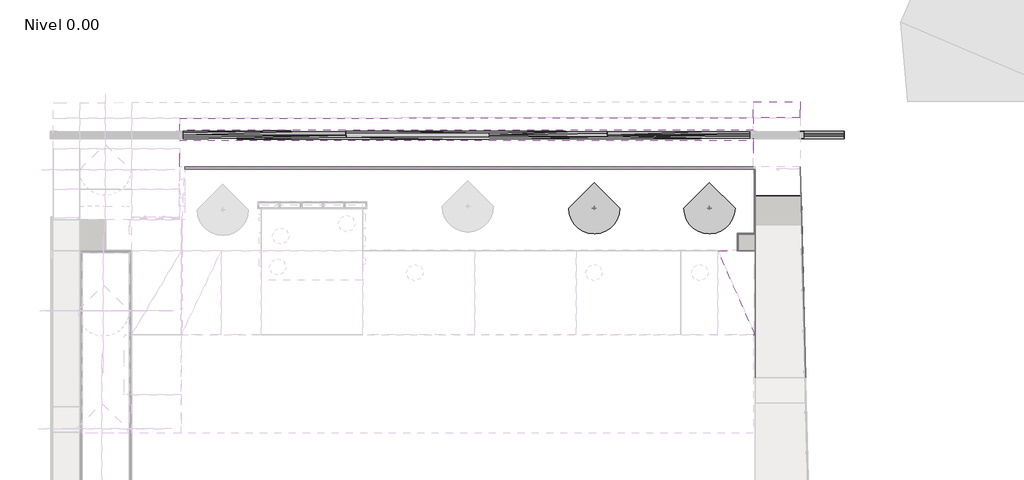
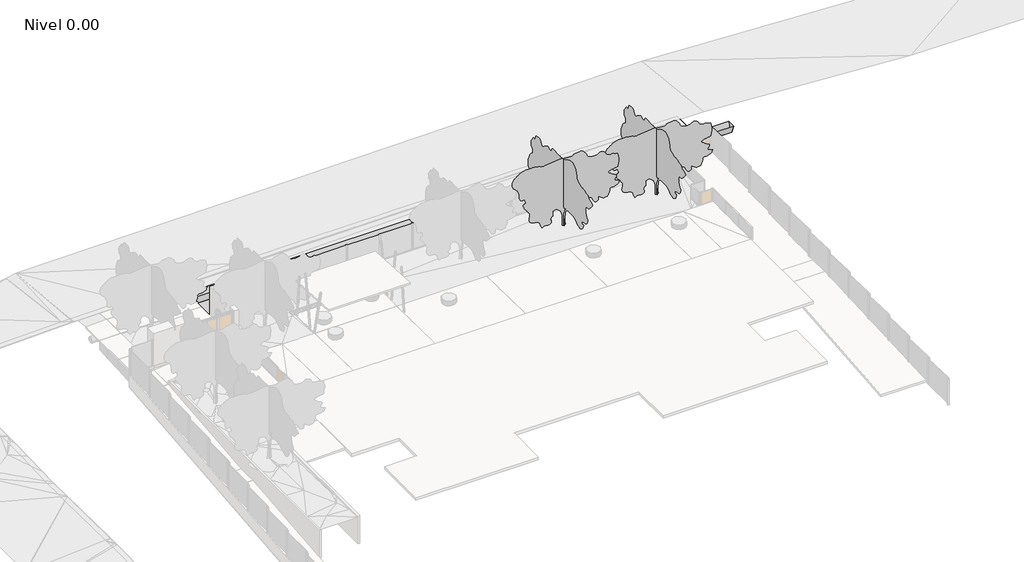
# One storey, part 10 of 10: 11 proxies, 2 geographic elements.
"""IFC4 building model written with IfcOpenShell, lengths in millimetres."""

from ifc_helpers import new_model, si_unit, origin, place, context, project, spatial, triangles, transform, mapped, element, save
from components import m_rpc_tree_deciduous_31fc5fb8

model = new_model("IFC4")

# Units and contexts
model_context = context("Model", 3, world=origin())
ifc_project = project(units=[si_unit("LENGTHUNIT", "METRE", prefix="MILLI")], contexts=[model_context])

# Site, building, storey
site = spatial("IfcSite", under=ifc_project)
building = spatial("IfcBuilding", under=site)
storey = spatial("IfcBuildingStorey", under=building, Name="Nivel 0.00", Elevation=0.0)

# Proxies
placement = place(None, origin())
element("IfcBuildingElementProxy", 1, Name="Building Element Proxy", at=placement, inside=storey, context=model_context, shape_type="Tessellation", body=[
    triangles([(18005.5253815, 10628.4128815, 1336.963306), (18005.5253815, 10628.4128815, 499.8404569), (18005.5253815, 9684.4263153, 1255.8361359), (18005.5253815, 9684.4263153, 499.8404569), (18005.5253815, 7432.3108749, 1062.2869034), (18005.5253815, 7432.3108749, 499.8404569), (18005.5253815, 6762.2564255, 1004.7016829), (18005.5253815, 6762.2564255, 499.8404569)], [[1, 4, 2], [1, 3, 4], [3, 6, 4], [3, 5, 6], [5, 8, 6], [5, 7, 8]], closed=False),
    triangles([(18005.5253815, 6762.2564255, 1004.7016829), (18005.5253815, 6762.2564255, 1089.8404541), (18005.5253815, 5786.4921478, 920.8434294), (18005.5253815, 5786.4921478, 1089.8404541)], [[1, 4, 2], [1, 3, 4]], closed=False),
    triangles([(18005.5253815, 5786.4921478, 920.8434294), (18005.5253815, 5786.4921478, 1279.9852432), (18005.5253815, 2381.3768818, 628.2041697), (18005.5253815, 2381.3768818, 1327.553706), (18005.5253815, 775.6549078, 490.2067062), (18005.5253815, 775.6549078, 1349.985331)], [[1, 4, 2], [1, 3, 4], [3, 6, 4], [3, 5, 6]], closed=False),
    triangles([(18005.5253815, 775.6549078, 490.2067062), (18005.5253815, 775.6549078, 342.2647553), (18005.5253815, 666.8821867, 480.8586576), (18005.5253815, 666.8821867, 333.9799049), (18005.5253815, -1587.9591774, 287.0751553), (18005.5253815, -1587.9591774, 228.7157088), (18005.5253815, -1793.0786339, 269.4469799), (18005.5253815, -1793.0786339, 219.3381017)], [[1, 4, 2], [1, 3, 4], [3, 6, 4], [3, 5, 6], [5, 8, 6], [5, 7, 8]], closed=False),
    triangles([(20690.8486816, 10773.5575104, 1349.4371086), (20690.8486816, 10773.5575104, 965.9795551), (20775.4923523, 7491.3927338, 1067.3644278), (20775.4923523, 7491.3927338, 833.9799088), (20813.5760742, 6014.5881088, 940.4462299), (20813.5760742, 6014.5881088, 730.1392994), (20950.4677185, 706.3930017, 484.2542716), (20950.4677185, 706.3930017, 333.9799049), (21014.9265747, -1793.0786339, 269.4469799), (21014.9265747, -1793.0786339, 214.6862781)], [[1, 4, 2], [1, 3, 4], [3, 6, 4], [3, 5, 6], [5, 8, 6], [5, 7, 8], [7, 10, 8], [7, 9, 10]], closed=False),
    triangles([(21014.9265747, -1793.0786339, 269.4469799), (21014.9265747, -1793.0786339, 214.6862781), (20950.4677185, 706.3930017, 484.2542716), (20950.4677185, 706.3930017, 333.9799049), (20813.5760742, 6014.5881088, 940.4462299), (20813.5760742, 6014.5881088, 730.1392994), (20775.4923523, 7491.3927338, 1067.3644278), (20775.4923523, 7491.3927338, 833.9799088), (20690.8486816, 10773.5575104, 1349.4371086), (20690.8486816, 10773.5575104, 965.9795551)], [[1, 4, 2], [1, 3, 4], [3, 6, 4], [3, 5, 6], [5, 8, 6], [5, 7, 8], [7, 10, 8], [7, 9, 10]], closed=False),
    triangles([(18005.5253815, 775.6549078, 490.2067062), (18005.5253815, 775.6549078, 342.2647553), (18005.5253815, 666.8821867, 480.8586576), (18005.5253815, 666.8821867, 333.9799049), (18005.5253815, -1587.9591774, 287.0751553), (18005.5253815, -1587.9591774, 228.7157088), (18005.5253815, -1793.0786339, 269.4469799), (18005.5253815, -1793.0786339, 219.3381017)], [[1, 4, 2], [1, 3, 4], [3, 6, 4], [3, 5, 6], [5, 8, 6], [5, 7, 8]], closed=False),
    triangles([(18005.5253815, 10628.4128815, 1336.963306), (18005.5253815, 10628.4128815, 499.8404569), (18005.5253815, 6762.2564255, 1004.7016829), (18005.5253815, 6762.2564255, 499.8404569)], [[1, 4, 2], [1, 3, 4]], closed=False),
    triangles([(18005.5253815, 6762.2564255, 1004.7016829), (18005.5253815, 6762.2564255, 1089.8404541), (18005.5253815, 5786.4921478, 920.8434294), (18005.5253815, 5786.4921478, 1089.8404541)], [[1, 4, 2], [1, 3, 4]], closed=False),
    triangles([(18005.5253815, 5786.4921478, 920.8434294), (18005.5253815, 5786.4921478, 1279.9852432), (18005.5253815, 775.6549078, 490.2067062), (18005.5253815, 775.6549078, 1349.985331)], [[1, 4, 2], [1, 3, 4]], closed=False),
    triangles([(18005.5253815, -1793.0786339, 269.4469799), (21014.9265747, -1793.0786339, 269.4469799), (20690.8486816, 10773.5575104, 1349.437254), (18005.5253815, 10773.8005188, 1349.4581829)], [[4, 1, 3], [2, 3, 1]], closed=False),
])
element("IfcBuildingElementProxy", 2, Name="Building Element Proxy", at=placement, inside=storey, context=model_context, shape_type="Tessellation", body=[
    triangles([(20690.8091492, 14627.6466797, 1349.840427), (20690.8091492, 14627.6466797, 1500.0000114), (20690.8091492, 13691.7886871, 1349.840427), (20690.8091492, 13691.7886871, 1499.9324284)], [[1, 4, 2], [1, 3, 4]], closed=False),
    triangles([(20690.8091492, 13691.7886871, 1349.840427), (20690.8091492, 13691.7886871, 1499.9324284), (20690.8091492, 14627.6466797, 1349.840427), (20690.8091492, 14627.6466797, 1500.0000114)], [[1, 4, 2], [1, 3, 4]], closed=False),
    triangles([(17905.5256714, 14624.7201141, 1349.840427), (17905.5256714, 13691.7886871, 1349.840427), (20690.8091492, 13691.7886871, 1349.840427), (20690.8091492, 14627.6466797, 1349.840427)], [[1, 2, 3], [3, 4, 1]], closed=False),
])
element("IfcBuildingElementProxy", 3, Name="Building Element Proxy", at=placement, inside=storey, context=model_context, shape_type="Tessellation", body=[
    triangles([(17905.5256714, 775.6549078, 1349.9700703), (17905.5256714, 775.6549078, 343.0877792), (18005.5253815, 775.6549078, 1349.9700703), (18005.5253815, 775.6549078, 342.2647553)], [[1, 4, 2], [1, 3, 4]], closed=False),
    triangles([(17905.5256714, 775.6549078, 1349.9700703), (17905.5256714, 775.6549078, 343.0877792), (18005.5253815, 775.6549078, 1349.9700703), (18005.5253815, 775.6549078, 342.2647553)], [[1, 4, 2], [1, 3, 4]], closed=False),
    triangles([(15795.1568115, 5786.4921478, 1249.9700695), (15795.1568115, 775.6549078, 1349.9700703), (18005.5253815, 775.6549078, 1349.9700703)], [[1, 2, 3]], closed=False),
])
element("IfcBuildingElementProxy", 4, Name="Building Element Proxy", at=placement, inside=storey, context=model_context, shape_type="Tessellation", body=[
    triangles([(15795.1568115, 5786.4921478, 1279.9852432), (18005.5253815, 775.6549078, 1349.985331), (18005.5253815, 5786.4921478, 1279.9852432)], [[1, 2, 3]], closed=False),
])
element("IfcBuildingElementProxy", 5, Name="Building Element Proxy", at=placement, inside=storey, context=model_context, shape_type="Tessellation", body=[
    triangles([(-15904.8326752, 10776.8759125, 499.8404569), (-15904.8326752, 10776.8759125, 847.0990934), (-15904.8326752, 10655.1845032, 499.8404569), (-15904.8326752, 10655.1845032, 833.9799088), (-15904.8326752, 10628.4128815, 499.8404569), (-15904.8326752, 10628.4128815, 832.7993122), (-15848.9779449, 10628.4128815, 499.8404569), (-15848.9779449, 10628.4128815, 833.9799088), (-13290.8561829, 10628.4128815, 499.8404569), (-13290.8561829, 10628.4128815, 966.1648636), (-12221.97724, 10628.4128815, 499.8404569), (-12221.97724, 10628.4128815, 1021.3966667), (-11742.7739319, 10628.4128815, 499.8404569), (-11742.7739319, 10628.4128815, 1046.158382), (-10472.3305481, 10628.4128815, 499.8404569), (-10472.3305481, 10628.4128815, 1046.0055571), (-9630.490654, 10628.4128815, 499.8404569), (-9630.490654, 10628.4128815, 1072.6864866), (-6698.7562317, 10628.4128815, 499.8404569), (-6698.7562317, 10628.4128815, 1165.6037802), (-6070.6986374, 10628.4128815, 499.8404569), (-6070.6986374, 10628.4128815, 1185.5091785), (-3984.3161041, 10628.4128815, 499.8404569), (-3984.3161041, 10628.4128815, 1185.33557), (-3180.0977509, 10628.4128815, 499.8404569), (-3180.0977509, 10628.4128815, 1185.2686409), (-2556.2108322, 10628.4128815, 499.8404569), (-2556.2108322, 10628.4128815, 1197.6035711), (-2261.5253311, 10628.4128815, 499.8404569), (-2261.5253311, 10628.4128815, 1203.4297417), (-1652.3798092, 10628.4128815, 499.8404569), (-1652.3798092, 10628.4128815, 1192.6431908), (-1376.8569466, 10628.4128815, 499.8404569), (-1376.8569466, 10628.4128815, 1187.7643461), (-1220.7113903, 10628.4128815, 499.8404569), (-1220.7113903, 10628.4128815, 1190.8515123), (-1072.6191216, 10628.4128815, 499.8404569), (-1072.6191216, 10628.4128815, 1188.185396), (-147.5089377, 10628.4128815, 499.8404569), (-147.5089377, 10628.4128815, 1188.1091652), (529.0745009, 10628.4128815, 499.8404569), (529.0745009, 10628.4128815, 1188.0534273), (1023.5197203, 10628.4128815, 499.8404569), (1023.5197203, 10628.4128815, 1181.9381756), (2116.674725, 10628.4128815, 499.8404569), (2116.674725, 10628.4128815, 1168.4182159), (2368.0592354, 10628.4128815, 499.8404569), (2368.0592354, 10628.4128815, 1165.3091034), (2906.9304131, 10628.4128815, 499.8404569), (2906.9304131, 10628.4128815, 1165.2615046), (4738.1811356, 10628.4128815, 499.8404569), (4738.1811356, 10628.4128815, 1165.0996685), (5638.289566, 10628.4128815, 499.8404569), (5638.289566, 10628.4128815, 1165.0201675), (6811.441214, 10628.4128815, 499.8404569), (6811.441214, 10628.4128815, 1157.1189056), (9557.4073242, 10628.4128815, 499.8404569), (9557.4073242, 10628.4128815, 1138.6245403), (10124.8866394, 10628.4128815, 499.8404569), (10124.8866394, 10628.4128815, 1134.8025352), (12119.9834656, 10628.4128815, 499.8404569), (12119.9834656, 10628.4128815, 1134.6105412), (13204.6498169, 10628.4128815, 499.8404569), (13204.6498169, 10628.4128815, 1134.5061871), (14256.2891144, 10628.4128815, 499.8404569), (14256.2891144, 10628.4128815, 1134.4049578), (17092.4973907, 10628.4128815, 499.8404569), (17092.4973907, 10628.4128815, 1130.5944345), (17941.2769775, 10628.4128815, 499.8404569), (17941.2769775, 10628.4128815, 1129.4540245)], [[1, 4, 2], [1, 3, 4], [3, 6, 4], [3, 5, 6], [5, 8, 6], [5, 7, 8], [7, 10, 8], [7, 9, 10], [9, 12, 10], [9, 11, 12], [11, 14, 12], [11, 13, 14], [13, 16, 14], [13, 15, 16], [15, 18, 16], [15, 17, 18], [17, 20, 18], [17, 19, 20], [19, 22, 20], [19, 21, 22], [21, 24, 22], [21, 23, 24], [23, 26, 24], [23, 25, 26], [25, 28, 26], [25, 27, 28], [27, 30, 28], [27, 29, 30], [29, 32, 30], [29, 31, 32], [31, 34, 32], [31, 33, 34], [33, 36, 34], [33, 35, 36], [35, 38, 36], [35, 37, 38], [37, 40, 38], [37, 39, 40], [39, 42, 40], [39, 41, 42], [41, 44, 42], [41, 43, 44], [43, 46, 44], [43, 45, 46], [45, 48, 46], [45, 47, 48], [47, 50, 48], [47, 49, 50], [49, 52, 50], [49, 51, 52], [51, 54, 52], [51, 53, 54], [53, 56, 54], [53, 55, 56], [55, 58, 56], [55, 57, 58], [57, 60, 58], [57, 59, 60], [59, 62, 60], [59, 61, 62], [61, 64, 62], [61, 63, 64], [63, 66, 64], [63, 65, 66], [65, 68, 66], [65, 67, 68], [67, 70, 68], [67, 69, 70]], closed=False),
    triangles([(17941.2769775, 10628.4128815, 499.8404569), (17941.2769775, 10628.4128815, 1129.4540245), (17092.4973907, 10628.4128815, 499.8404569), (17092.4973907, 10628.4128815, 1130.5944345), (14256.2891144, 10628.4128815, 499.8404569), (14256.2891144, 10628.4128815, 1134.4049578), (13204.6498169, 10628.4128815, 499.8404569), (13204.6498169, 10628.4128815, 1134.5061871), (12119.9834656, 10628.4128815, 499.8404569), (12119.9834656, 10628.4128815, 1134.6105412), (10124.8866394, 10628.4128815, 499.8404569), (10124.8866394, 10628.4128815, 1134.8025352), (9557.4073242, 10628.4128815, 499.8404569), (9557.4073242, 10628.4128815, 1138.6245403), (6811.441214, 10628.4128815, 499.8404569), (6811.441214, 10628.4128815, 1157.1189056), (5638.289566, 10628.4128815, 499.8404569), (5638.289566, 10628.4128815, 1165.0201675), (4738.1811356, 10628.4128815, 499.8404569), (4738.1811356, 10628.4128815, 1165.0996685), (2906.9304131, 10628.4128815, 499.8404569), (2906.9304131, 10628.4128815, 1165.2615046), (2368.0592354, 10628.4128815, 499.8404569), (2368.0592354, 10628.4128815, 1165.3091034), (2116.674725, 10628.4128815, 499.8404569), (2116.674725, 10628.4128815, 1168.4182159), (1023.5197203, 10628.4128815, 499.8404569), (1023.5197203, 10628.4128815, 1181.9381756), (529.0745009, 10628.4128815, 499.8404569), (529.0745009, 10628.4128815, 1188.0534273), (-147.5089377, 10628.4128815, 499.8404569), (-147.5089377, 10628.4128815, 1188.1091652), (-1072.6191216, 10628.4128815, 499.8404569), (-1072.6191216, 10628.4128815, 1188.185396), (-1220.7113903, 10628.4128815, 499.8404569), (-1220.7113903, 10628.4128815, 1190.8515123), (-1376.8569466, 10628.4128815, 499.8404569), (-1376.8569466, 10628.4128815, 1187.7643461), (-1652.3798092, 10628.4128815, 499.8404569), (-1652.3798092, 10628.4128815, 1192.6431908), (-2261.5253311, 10628.4128815, 499.8404569), (-2261.5253311, 10628.4128815, 1203.4297417), (-2556.2108322, 10628.4128815, 499.8404569), (-2556.2108322, 10628.4128815, 1197.6035711), (-3180.0977509, 10628.4128815, 499.8404569), (-3180.0977509, 10628.4128815, 1185.2686409), (-3984.3161041, 10628.4128815, 499.8404569), (-3984.3161041, 10628.4128815, 1185.33557), (-6070.6986374, 10628.4128815, 499.8404569), (-6070.6986374, 10628.4128815, 1185.5091785), (-6698.7562317, 10628.4128815, 499.8404569), (-6698.7562317, 10628.4128815, 1165.6037802), (-9630.490654, 10628.4128815, 499.8404569), (-9630.490654, 10628.4128815, 1072.6864866), (-10472.3305481, 10628.4128815, 499.8404569), (-10472.3305481, 10628.4128815, 1046.0055571), (-11742.7739319, 10628.4128815, 499.8404569), (-11742.7739319, 10628.4128815, 1046.158382), (-12221.97724, 10628.4128815, 499.8404569), (-12221.97724, 10628.4128815, 1021.3966667), (-13290.8561829, 10628.4128815, 499.8404569), (-13290.8561829, 10628.4128815, 966.1648636), (-15848.9779449, 10628.4128815, 499.8404569), (-15848.9779449, 10628.4128815, 833.9799088), (-15904.8326752, 10628.4128815, 499.8404569), (-15904.8326752, 10628.4128815, 832.7993122), (-15904.8326752, 10655.1845032, 499.8404569), (-15904.8326752, 10655.1845032, 833.9799088), (-15904.8326752, 10776.8759125, 499.8404569), (-15904.8326752, 10776.8759125, 847.0990934)], [[1, 4, 2], [1, 3, 4], [3, 6, 4], [3, 5, 6], [5, 8, 6], [5, 7, 8], [7, 10, 8], [7, 9, 10], [9, 12, 10], [9, 11, 12], [11, 14, 12], [11, 13, 14], [13, 16, 14], [13, 15, 16], [15, 18, 16], [15, 17, 18], [17, 20, 18], [17, 19, 20], [19, 22, 20], [19, 21, 22], [21, 24, 22], [21, 23, 24], [23, 26, 24], [23, 25, 26], [25, 28, 26], [25, 27, 28], [27, 30, 28], [27, 29, 30], [29, 32, 30], [29, 31, 32], [31, 34, 32], [31, 33, 34], [33, 36, 34], [33, 35, 36], [35, 38, 36], [35, 37, 38], [37, 40, 38], [37, 39, 40], [39, 42, 40], [39, 41, 42], [41, 44, 42], [41, 43, 44], [43, 46, 44], [43, 45, 46], [45, 48, 46], [45, 47, 48], [47, 50, 48], [47, 49, 50], [49, 52, 50], [49, 51, 52], [51, 54, 52], [51, 53, 54], [53, 56, 54], [53, 55, 56], [55, 58, 56], [55, 57, 58], [57, 60, 58], [57, 59, 60], [59, 62, 60], [59, 61, 62], [61, 64, 62], [61, 63, 64], [63, 66, 64], [63, 65, 66], [65, 68, 66], [65, 67, 68], [67, 70, 68], [67, 69, 70]], closed=False),
    triangles([(-2252.8217926, 10779.2315826, 499.8404569), (-2252.8217926, 10779.2315826, 1214.4464384), (-2253.6910709, 10779.2315826, 499.8404569), (-2253.6910709, 10779.2315826, 1214.4618444), (-2254.5936321, 10779.2315826, 499.8404569), (-2254.5936321, 10779.2315826, 1214.4439676), (-2557.1761803, 10779.2315826, 499.8404569), (-2557.1761803, 10779.2315826, 1208.4616293), (-3126.3617867, 10779.2315826, 499.8404569), (-3126.3617867, 10779.2315826, 1197.2082464), (-3128.8552391, 10779.2315826, 499.8404569), (-3128.8552391, 10779.2315826, 1197.2083918), (-3957.9139366, 10779.2315826, 499.8404569), (-3957.9139366, 10779.2315826, 1197.2774282), (-6109.2364014, 10779.2315826, 499.8404569), (-6109.2364014, 10779.2315826, 1197.4564871), (-6115.2081299, 10779.2315826, 499.8404569), (-6115.2081299, 10779.2315826, 1197.4569231), (-6762.8470871, 10779.2315826, 499.8404569), (-6762.8470871, 10779.2315826, 1176.9309231), (-6764.6120956, 10779.2315826, 499.8404569), (-6764.6120956, 10779.2315826, 1176.8749672), (-9439.2982544, 10779.2315826, 499.8404569), (-9439.2982544, 10779.2315826, 1092.1044874), (-9442.3341156, 10779.2315826, 499.8404569), (-9442.3341156, 10779.2315826, 1092.0082724), (-10349.6182709, 10779.2315826, 499.8404569), (-10349.6182709, 10779.2315826, 1063.2531235), (-10354.0726501, 10779.2315826, 499.8404569), (-10354.0726501, 10779.2315826, 1063.2537048), (-11723.4088348, 10779.2315826, 499.8404569), (-11723.4088348, 10779.2315826, 1063.418375), (-12240.0145111, 10779.2315826, 499.8404569), (-12240.0145111, 10779.2315826, 1036.7240015), (-12241.5934845, 10779.2315826, 499.8404569), (-12241.5934845, 10779.2315826, 1036.6423931), (-13394.0359314, 10779.2315826, 499.8404569), (-13394.0359314, 10779.2315826, 977.0926849), (-13397.4217712, 10779.2315826, 499.8404569), (-13397.4217712, 10779.2315826, 976.9176956), (-15904.8326752, 10779.2315826, 499.8404569), (-15904.8326752, 10779.2315826, 847.353075), (-15904.8326752, 10776.8759125, 499.8404569), (-15904.8326752, 10776.8759125, 847.0990934)], [[1, 4, 2], [1, 3, 4], [3, 6, 4], [3, 5, 6], [5, 8, 6], [5, 7, 8], [7, 10, 8], [7, 9, 10], [9, 12, 10], [9, 11, 12], [11, 14, 12], [11, 13, 14], [13, 16, 14], [13, 15, 16], [15, 18, 16], [15, 17, 18], [17, 20, 18], [17, 19, 20], [19, 22, 20], [19, 21, 22], [21, 24, 22], [21, 23, 24], [23, 26, 24], [23, 25, 26], [25, 28, 26], [25, 27, 28], [27, 30, 28], [27, 29, 30], [29, 32, 30], [29, 31, 32], [31, 34, 32], [31, 33, 34], [33, 36, 34], [33, 35, 36], [35, 38, 36], [35, 37, 38], [37, 40, 38], [37, 39, 40], [39, 42, 40], [39, 41, 42], [41, 44, 42], [41, 43, 44]], closed=False),
    triangles([(17905.5256714, 10779.2315826, 499.8404569), (17905.5256714, 10779.2315826, 1143.4408888), (16955.0034576, 10779.2315826, 499.8404569), (16955.0034576, 10779.2315826, 1144.7179911), (16952.3536194, 10779.2315826, 499.8404569), (16952.3536194, 10779.2315826, 1144.7215519), (16946.6248993, 10779.2315826, 499.8404569), (16946.6248993, 10779.2315826, 1144.7292549), (14359.0898163, 10779.2315826, 499.8404569), (14359.0898163, 10779.2315826, 1148.2057142), (14353.8994354, 10779.2315826, 499.8404569), (14353.8994354, 10779.2315826, 1148.2062229), (13259.1406769, 10779.2315826, 499.8404569), (13259.1406769, 10779.2315826, 1148.3115944), (13253.8909973, 10779.2315826, 499.8404569), (13253.8909973, 10779.2315826, 1148.3121031), (12124.6471344, 10779.2315826, 499.8404569), (12124.6471344, 10779.2315826, 1148.4207447), (10046.9960449, 10779.2315826, 499.8404569), (10046.9960449, 10779.2315826, 1148.6206598), (10037.9012512, 10779.2315826, 499.8404569), (10037.9012512, 10779.2315826, 1148.6215319), (9446.9111618, 10779.2315826, 499.8404569), (9446.9111618, 10779.2315826, 1152.6018848), (9444.3537598, 10779.2315826, 499.8404569), (9444.3537598, 10779.2315826, 1152.6191076), (6939.1479538, 10779.2315826, 499.8404569), (6939.1479538, 10779.2315826, 1169.4919149), (6934.4069641, 10779.2315826, 499.8404569), (6934.4069641, 10779.2315826, 1169.5238171), (5721.0757919, 10779.2315826, 499.8404569), (5721.0757919, 10779.2315826, 1177.695702), (5717.5289154, 10779.2315826, 499.8404569), (5717.5289154, 10779.2315826, 1177.6960653), (4786.502314, 10779.2315826, 499.8404569), (4786.502314, 10779.2315826, 1177.7783278), (4779.4268738, 10779.2315826, 499.8404569), (4779.4268738, 10779.2315826, 1177.7789091), (2885.1329063, 10779.2315826, 499.8404569), (2885.1329063, 10779.2315826, 1177.9463408), (2327.6008038, 10779.2315826, 499.8404569), (2327.6008038, 10779.2315826, 1177.995611), (2325.6281044, 10779.2315826, 499.8404569), (2325.6281044, 10779.2315826, 1177.9957563), (2065.5329338, 10779.2315826, 499.8404569), (2065.5329338, 10779.2315826, 1181.2125658), (2064.6181641, 10779.2315826, 499.8404569), (2064.6181641, 10779.2315826, 1181.2239023), (1067.3087626, 10779.2315826, 499.8404569), (1067.3087626, 10779.2315826, 1193.5584692), (1065.6184587, 10779.2315826, 499.8404569), (1065.6184587, 10779.2315826, 1193.5793982), (556.3512154, 10779.2315826, 499.8404569), (556.3512154, 10779.2315826, 1199.8779236), (554.0657444, 10779.2315826, 499.8404569), (554.0657444, 10779.2315826, 1199.8781416), (-142.8271468, 10779.2315826, 499.8404569), (-142.8271468, 10779.2315826, 1199.9355509), (-1095.8285334, 10779.2315826, 499.8404569), (-1095.8285334, 10779.2315826, 1200.0141071), (-1098.8319838, 10779.2315826, 499.8404569), (-1098.8319838, 10779.2315826, 1200.0143251), (-1251.390913, 10779.2315826, 499.8404569), (-1251.390913, 10779.2315826, 1202.7608145)], [[1, 4, 2], [1, 3, 4], [3, 6, 4], [3, 5, 6], [5, 8, 6], [5, 7, 8], [7, 10, 8], [7, 9, 10], [9, 12, 10], [9, 11, 12], [11, 14, 12], [11, 13, 14], [13, 16, 14], [13, 15, 16], [15, 18, 16], [15, 17, 18], [17, 20, 18], [17, 19, 20], [19, 22, 20], [19, 21, 22], [21, 24, 22], [21, 23, 24], [23, 26, 24], [23, 25, 26], [25, 28, 26], [25, 27, 28], [27, 30, 28], [27, 29, 30], [29, 32, 30], [29, 31, 32], [31, 34, 32], [31, 33, 34], [33, 36, 34], [33, 35, 36], [35, 38, 36], [35, 37, 38], [37, 40, 38], [37, 39, 40], [39, 42, 40], [39, 41, 42], [41, 44, 42], [41, 43, 44], [43, 46, 44], [43, 45, 46], [45, 48, 46], [45, 47, 48], [47, 50, 48], [47, 49, 50], [49, 52, 50], [49, 51, 52], [51, 54, 52], [51, 53, 54], [53, 56, 54], [53, 55, 56], [55, 58, 56], [55, 57, 58], [57, 60, 58], [57, 59, 60], [59, 62, 60], [59, 61, 62], [61, 64, 62], [61, 63, 64]], closed=False),
    triangles([(-15904.8326752, 10776.8759125, 499.8404569), (-15904.8326752, 10776.8759125, 847.0990934), (-15904.8326752, 10779.2315826, 499.8404569), (-15904.8326752, 10779.2315826, 847.353075), (-13397.4217712, 10779.2315826, 499.8404569), (-13397.4217712, 10779.2315826, 976.9176956), (-13394.0359314, 10779.2315826, 499.8404569), (-13394.0359314, 10779.2315826, 977.0926849), (-12241.5934845, 10779.2315826, 499.8404569), (-12241.5934845, 10779.2315826, 1036.6423931), (-12240.0145111, 10779.2315826, 499.8404569), (-12240.0145111, 10779.2315826, 1036.7240015), (-11723.4088348, 10779.2315826, 499.8404569), (-11723.4088348, 10779.2315826, 1063.418375), (-10354.0726501, 10779.2315826, 499.8404569), (-10354.0726501, 10779.2315826, 1063.2537048), (-10349.6182709, 10779.2315826, 499.8404569), (-10349.6182709, 10779.2315826, 1063.2531235), (-9442.3341156, 10779.2315826, 499.8404569), (-9442.3341156, 10779.2315826, 1092.0082724), (-9439.2982544, 10779.2315826, 499.8404569), (-9439.2982544, 10779.2315826, 1092.1044874), (-6764.6120956, 10779.2315826, 499.8404569), (-6764.6120956, 10779.2315826, 1176.8749672), (-6762.8470871, 10779.2315826, 499.8404569), (-6762.8470871, 10779.2315826, 1176.9309231), (-6115.2081299, 10779.2315826, 499.8404569), (-6115.2081299, 10779.2315826, 1197.4569231), (-6109.2364014, 10779.2315826, 499.8404569), (-6109.2364014, 10779.2315826, 1197.4564871), (-3957.9139366, 10779.2315826, 499.8404569), (-3957.9139366, 10779.2315826, 1197.2774282), (-3128.8552391, 10779.2315826, 499.8404569), (-3128.8552391, 10779.2315826, 1197.2083918), (-3126.3617867, 10779.2315826, 499.8404569), (-3126.3617867, 10779.2315826, 1197.2082464), (-2557.1761803, 10779.2315826, 499.8404569), (-2557.1761803, 10779.2315826, 1208.4616293), (-2254.5936321, 10779.2315826, 499.8404569), (-2254.5936321, 10779.2315826, 1214.4439676), (-2253.6910709, 10779.2315826, 499.8404569), (-2253.6910709, 10779.2315826, 1214.4618444), (-2252.8217926, 10779.2315826, 499.8404569), (-2252.8217926, 10779.2315826, 1214.4464384), (-1697.0727207, 10779.2315826, 499.8404569), (-1697.0727207, 10779.2315826, 1204.6053967), (-1412.7269955, 10779.2315826, 499.8404569), (-1412.7269955, 10779.2315826, 1199.5891331), (-1251.390913, 10779.2315826, 499.8404569), (-1251.390913, 10779.2315826, 1202.7608145), (-1098.8319838, 10779.2315826, 499.8404569), (-1098.8319838, 10779.2315826, 1200.0143251), (-1095.8285334, 10779.2315826, 499.8404569), (-1095.8285334, 10779.2315826, 1200.0141071), (-142.8271468, 10779.2315826, 499.8404569), (-142.8271468, 10779.2315826, 1199.9355509), (554.0657444, 10779.2315826, 499.8404569), (554.0657444, 10779.2315826, 1199.8781416), (556.3512154, 10779.2315826, 499.8404569), (556.3512154, 10779.2315826, 1199.8779236), (1065.6184587, 10779.2315826, 499.8404569), (1065.6184587, 10779.2315826, 1193.5793982), (1067.3087626, 10779.2315826, 499.8404569), (1067.3087626, 10779.2315826, 1193.5584692), (2064.6181641, 10779.2315826, 499.8404569), (2064.6181641, 10779.2315826, 1181.2239023), (2065.5329338, 10779.2315826, 499.8404569), (2065.5329338, 10779.2315826, 1181.2125658), (2325.6281044, 10779.2315826, 499.8404569), (2325.6281044, 10779.2315826, 1177.9957563), (2327.6008038, 10779.2315826, 499.8404569), (2327.6008038, 10779.2315826, 1177.995611), (2885.1329063, 10779.2315826, 499.8404569), (2885.1329063, 10779.2315826, 1177.9463408), (4779.4268738, 10779.2315826, 499.8404569), (4779.4268738, 10779.2315826, 1177.7789091), (4786.502314, 10779.2315826, 499.8404569), (4786.502314, 10779.2315826, 1177.7783278), (5717.5289154, 10779.2315826, 499.8404569), (5717.5289154, 10779.2315826, 1177.6960653), (5721.0757919, 10779.2315826, 499.8404569), (5721.0757919, 10779.2315826, 1177.695702), (6934.4069641, 10779.2315826, 499.8404569), (6934.4069641, 10779.2315826, 1169.5238171), (6939.1479538, 10779.2315826, 499.8404569), (6939.1479538, 10779.2315826, 1169.4919149), (9444.3537598, 10779.2315826, 499.8404569), (9444.3537598, 10779.2315826, 1152.6191076), (9446.9111618, 10779.2315826, 499.8404569), (9446.9111618, 10779.2315826, 1152.6018848), (10037.9012512, 10779.2315826, 499.8404569), (10037.9012512, 10779.2315826, 1148.6215319), (10046.9960449, 10779.2315826, 499.8404569), (10046.9960449, 10779.2315826, 1148.6206598), (12124.6471344, 10779.2315826, 499.8404569), (12124.6471344, 10779.2315826, 1148.4207447), (13253.8909973, 10779.2315826, 499.8404569), (13253.8909973, 10779.2315826, 1148.3121031), (13259.1406769, 10779.2315826, 499.8404569), (13259.1406769, 10779.2315826, 1148.3115944), (14353.8994354, 10779.2315826, 499.8404569), (14353.8994354, 10779.2315826, 1148.2062229), (14359.0898163, 10779.2315826, 499.8404569), (14359.0898163, 10779.2315826, 1148.2057142), (16946.6248993, 10779.2315826, 499.8404569), (16946.6248993, 10779.2315826, 1144.7292549), (16952.3536194, 10779.2315826, 499.8404569), (16952.3536194, 10779.2315826, 1144.7215519), (16955.0034576, 10779.2315826, 499.8404569), (16955.0034576, 10779.2315826, 1144.7179911), (17905.5256714, 10779.2315826, 499.8404569), (17905.5256714, 10779.2315826, 1143.4408888)], [[1, 4, 2], [1, 3, 4], [3, 6, 4], [3, 5, 6], [5, 8, 6], [5, 7, 8], [7, 10, 8], [7, 9, 10], [9, 12, 10], [9, 11, 12], [11, 14, 12], [11, 13, 14], [13, 16, 14], [13, 15, 16], [15, 18, 16], [15, 17, 18], [17, 20, 18], [17, 19, 20], [19, 22, 20], [19, 21, 22], [21, 24, 22], [21, 23, 24], [23, 26, 24], [23, 25, 26], [25, 28, 26], [25, 27, 28], [27, 30, 28], [27, 29, 30], [29, 32, 30], [29, 31, 32], [31, 34, 32], [31, 33, 34], [33, 36, 34], [33, 35, 36], [35, 38, 36], [35, 37, 38], [37, 40, 38], [37, 39, 40], [39, 42, 40], [39, 41, 42], [41, 44, 42], [41, 43, 44], [43, 46, 44], [43, 45, 46], [45, 48, 46], [45, 47, 48], [47, 50, 48], [47, 49, 50], [49, 52, 50], [49, 51, 52], [51, 54, 52], [51, 53, 54], [53, 56, 54], [53, 55, 56], [55, 58, 56], [55, 57, 58], [57, 60, 58], [57, 59, 60], [59, 62, 60], [59, 61, 62], [61, 64, 62], [61, 63, 64], [63, 66, 64], [63, 65, 66], [65, 68, 66], [65, 67, 68], [67, 70, 68], [67, 69, 70], [69, 72, 70], [69, 71, 72], [71, 74, 72], [71, 73, 74], [73, 76, 74], [73, 75, 76], [75, 78, 76], [75, 77, 78], [77, 80, 78], [77, 79, 80], [79, 82, 80], [79, 81, 82], [81, 84, 82], [81, 83, 84], [83, 86, 84], [83, 85, 86], [85, 88, 86], [85, 87, 88], [87, 90, 88], [87, 89, 90], [89, 92, 90], [89, 91, 92], [91, 94, 92], [91, 93, 94], [93, 96, 94], [93, 95, 96], [95, 98, 96], [95, 97, 98], [97, 100, 98], [97, 99, 100], [99, 102, 100], [99, 101, 102], [101, 104, 102], [101, 103, 104], [103, 106, 104], [103, 105, 106], [105, 108, 106], [105, 107, 108], [107, 110, 108], [107, 109, 110], [109, 112, 110], [109, 111, 112]], closed=False),
    triangles([(18006.2764984, 10779.2315826, 499.8404569), (-15904.8326752, 10779.2315826, 499.8404569), (-15904.8326752, 10628.4128815, 499.8404569), (18006.2764984, 10628.4128815, 499.8404569)], [[2, 3, 4], [4, 1, 2]], closed=False),
])
element("IfcBuildingElementProxy", 6, Name="Building Element Proxy", at=placement, inside=storey, context=model_context, shape_type="Tessellation", body=[
    triangles([(-16204.8329681, 10779.2315826, 1450.0000111), (17905.5256714, 10773.5575104, 1450.0000111), (17905.5256714, 12348.059079, 1450.0000111), (2168.4642963, 12348.059079, 1450.0000111), (-16208.9362061, 12348.059079, 1477.3569168)], [[5, 1, 4], [4, 2, 3], [2, 4, 1]], closed=False),
])
element("IfcBuildingElementProxy", 7, Name="Building Element Proxy", at=placement, inside=storey, context=model_context, shape_type="Tessellation", body=[
    triangles([(18005.5253815, 5786.4921478, 1089.8404541), (18005.5253815, 5786.4921478, 1279.9852432), (17005.5259552, 5786.4921478, 1089.8404541), (17005.5259552, 5786.4921478, 1279.9852432)], [[1, 4, 2], [1, 3, 4]], closed=False),
    triangles([(18005.5253815, 5786.4921478, 1089.8404541), (18005.5253815, 5786.4921478, 1279.9852432), (17005.5259552, 5786.4921478, 1089.8404541), (17005.5259552, 5786.4921478, 1279.9852432)], [[1, 4, 2], [1, 3, 4]], closed=False),
    triangles([(18005.5253815, 5786.4921478, 1089.8404541), (18005.5253815, 6762.2564255, 1089.8404541), (17005.5259552, 6762.2564255, 1089.8404541), (17005.5259552, 5786.4921478, 1089.8404541)], [[3, 4, 1], [1, 2, 3]], closed=False),
])
element("IfcBuildingElementProxy", 8, Name="Building Element Proxy", at=placement, inside=storey, context=model_context, shape_type="Tessellation", body=[
    triangles([(18005.5253815, 6762.2564255, 499.8404569), (18005.5253815, 6762.2564255, 1089.8404541), (17005.5259552, 6762.2564255, 499.8404569), (17005.5259552, 6762.2564255, 1089.8404541), (17005.5259552, 5786.4921478, 499.8404569), (17005.5259552, 5786.4921478, 1089.8404541)], [[1, 4, 2], [1, 3, 4], [3, 6, 4], [3, 5, 6]], closed=False),
    triangles([(16955.5255188, 5786.4921478, 499.8404569), (16955.5255188, 5786.4921478, 1279.9852432), (17005.5259552, 5786.4921478, 499.8404569), (17005.5259552, 5786.4921478, 1279.9852432)], [[1, 4, 2], [1, 3, 4]], closed=False),
    triangles([(17941.2769775, 10628.4128815, 499.8404569), (17941.2769775, 10628.4128815, 1129.4540245), (17941.2769775, 9750.853656, 499.8404569), (17941.2769775, 9750.853656, 1048.3488733), (17941.2769775, 7431.377211, 499.8404569), (17941.2769775, 7431.377211, 833.9799088), (17941.2769775, 6812.2562805, 499.8404569), (17941.2769775, 6812.2562805, 788.6989517), (16955.5255188, 6812.2562805, 499.8404569), (16955.5255188, 6812.2562805, 789.7469982), (16955.5255188, 5786.4921478, 499.8404569), (16955.5255188, 5786.4921478, 714.7252693)], [[1, 4, 2], [1, 3, 4], [3, 6, 4], [3, 5, 6], [5, 8, 6], [5, 7, 8], [7, 10, 8], [7, 9, 10], [9, 12, 10], [9, 11, 12]], closed=False),
    triangles([(17941.2769775, 10628.4128815, 499.8404569), (17941.2769775, 10628.4128815, 1129.4540245), (17941.2769775, 9750.853656, 499.8404569), (17941.2769775, 9750.853656, 1048.3488733), (17941.2769775, 7431.377211, 499.8404569), (17941.2769775, 7431.377211, 833.9799088), (17941.2769775, 6812.2562805, 499.8404569), (17941.2769775, 6812.2562805, 788.6989517), (16955.5255188, 6812.2562805, 499.8404569), (16955.5255188, 6812.2562805, 789.7469982), (16955.5255188, 5786.4921478, 499.8404569), (16955.5255188, 5786.4921478, 714.7252693)], [[1, 4, 2], [1, 3, 4], [3, 6, 4], [3, 5, 6], [5, 8, 6], [5, 7, 8], [7, 10, 8], [7, 9, 10], [9, 12, 10], [9, 11, 12]], closed=False),
    triangles([(18005.5253815, 6762.2564255, 499.8404569), (18005.5253815, 6762.2564255, 1089.8404541), (17005.5259552, 6762.2564255, 499.8404569), (17005.5259552, 6762.2564255, 1089.8404541), (17005.5259552, 5786.4921478, 499.8404569), (17005.5259552, 5786.4921478, 1089.8404541)], [[1, 4, 2], [1, 3, 4], [3, 6, 4], [3, 5, 6]], closed=False),
    triangles([(16955.5255188, 5786.4921478, 499.8404569), (16955.5255188, 5786.4921478, 1279.9852432), (17005.5259552, 5786.4921478, 499.8404569), (17005.5259552, 5786.4921478, 1279.9852432)], [[1, 4, 2], [1, 3, 4]], closed=False),
    triangles([(17005.5259552, 6762.2564255, 499.8404569), (18005.5253815, 6762.2564255, 499.8404569), (18005.5253815, 10628.4128815, 499.8404569), (17941.2769775, 10628.4128815, 499.8404569), (17941.2769775, 6812.2562805, 499.8404569), (16955.5255188, 6812.2562805, 499.8404569), (16955.5255188, 5786.4921478, 499.8404569), (17005.5259552, 5786.4921478, 499.8404569)], [[7, 8, 1], [6, 1, 5], [1, 6, 7], [5, 2, 3], [5, 1, 2], [3, 4, 5]], closed=False),
])
element("IfcBuildingElementProxy", 9, Name="Building Element Proxy", at=placement, inside=storey, context=model_context, shape_type="Tessellation", body=[
    triangles([(17905.5256714, 13691.7886871, 1450.0000111), (-16212.3325104, 13646.5647034, 1499.9998661), (-16210.5058777, 12948.0596649, 1487.8195049), (-6324.7465027, 12948.0596649, 1473.1033974), (9195.3544235, 12948.0596649, 1450.0000111), (17905.5256714, 12948.0596649, 1450.0000111)], [[2, 3, 4], [2, 4, 1], [5, 6, 1], [5, 1, 4]], closed=False),
])
element("IfcBuildingElementProxy", 10, Name="Building Element Proxy", at=placement, inside=storey, context=model_context, shape_type="Tessellation", body=[
    triangles([(-16208.9362061, 12348.059079, 1477.3569168), (2168.4642963, 12348.059079, 1450.0000111), (17905.5256714, 12348.059079, 1450.0000111), (17905.5256714, 12549.0968079, 800.0000061), (17905.5256714, 12648.0593719, 779.9999914), (17905.5256714, 12744.5685974, 800.0000061), (17905.5256714, 12948.0596649, 1450.0000111), (9195.3544235, 12948.0596649, 1450.0000111), (-6324.7465027, 12948.0596649, 1473.1033974), (-16210.5058777, 12948.0596649, 1487.8195049), (-16210.060556, 12777.9014465, 650.000005), (-16209.7210419, 12648.0593719, 629.9999903), (-16209.3757141, 12515.9592957, 650.000005), (9217.6170181, 12648.0593719, 742.5000275), (2165.2601315, 12648.0593719, 704.9999908), (-6317.1580124, 12648.0593719, 667.5000269), (-6316.381897, 12772.6982758, 679.9999907), (-6312.3094711, 12518.1766022, 679.9999907), (2160.8893227, 12766.8486328, 729.999991), (2164.9616032, 12528.6178253, 729.999991), (9206.453746, 12753.8343109, 759.9999767), (9209.994809, 12537.8230774, 759.9999767)], [[13, 1, 16], [17, 16, 18], [18, 16, 1], [2, 20, 18], [19, 18, 20], [18, 1, 2], [13, 16, 12], [11, 12, 9], [10, 11, 9], [9, 17, 19], [9, 12, 16], [9, 16, 17], [9, 19, 8], [18, 19, 17], [20, 15, 19], [20, 22, 15], [22, 20, 2], [14, 22, 3], [3, 22, 2], [15, 22, 21], [4, 14, 3], [8, 21, 14], [21, 8, 15], [14, 21, 22], [8, 14, 7], [6, 7, 14], [5, 6, 14], [14, 4, 5], [15, 8, 19]], closed=False),
])
element("IfcBuildingElementProxy", 11, Name="Building Element Proxy", at=placement, inside=storey, context=model_context, shape_type="Tessellation", body=[
    triangles([(23318.4441101, 12348.059079, 1450.0000111), (20692.9811096, 12348.059079, 1450.0000111), (20692.9811096, 12549.0968079, 850.0000065), (20692.9811096, 12648.0593719, 800.0000061), (20692.9811096, 12744.5685974, 850.0000065), (20692.9811096, 12948.0596649, 1450.0000111), (23312.2677429, 12948.0596649, 1450.0000111), (23292.9805481, 12549.0968079, 850.0000065), (23292.9805481, 12648.0593719, 800.0000061), (23292.9805481, 12744.5685974, 850.0000065)], [[3, 2, 8], [5, 4, 9], [6, 5, 10], [3, 9, 4], [8, 1, 9], [1, 8, 2], [9, 7, 10], [7, 9, 1], [10, 7, 6], [9, 10, 5], [8, 9, 3]], closed=False),
])

# Geographic elements
m_rpc_tree_deciduous_shape = m_rpc_tree_deciduous_31fc5fb8(model_context)
element("IfcGeographicElement", 12, ObjectType="M_RPC Tree - Deciduous : Liquidambar - 6000mm", at=placement, inside=storey, context=model_context, shape_type="MappedRepresentation", body=[
    mapped(m_rpc_tree_deciduous_shape, transform((8436.6194513, 8305.8575685, 956.2299694), x_axis=(1.0, 0.0, 0.0), y_axis=(0.0, 1.0, 0.0), z_axis=(0.0, 0.0, 1.0))),
])
element("IfcGeographicElement", 13, ObjectType="M_RPC Tree - Deciduous : Liquidambar - 6000mm", at=placement, inside=storey, context=model_context, shape_type="MappedRepresentation", body=[
    mapped(m_rpc_tree_deciduous_shape, transform((15290.9444773, 8306.0340952, 930.7367596), x_axis=(1.0, 0.0, 0.0), y_axis=(0.0, 1.0, 0.0), z_axis=(0.0, 0.0, 1.0))),
])

save(model, "model.ifc")
